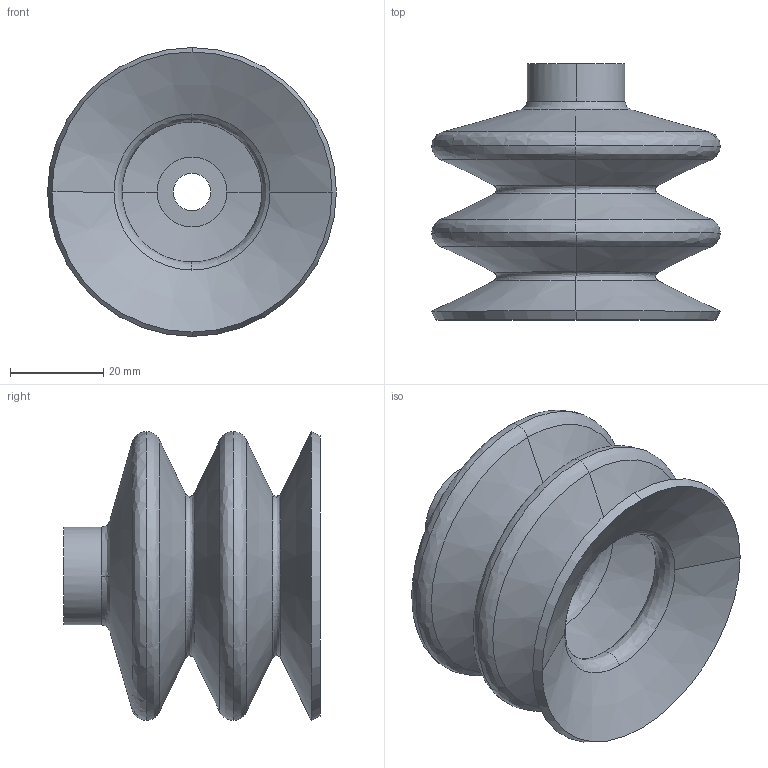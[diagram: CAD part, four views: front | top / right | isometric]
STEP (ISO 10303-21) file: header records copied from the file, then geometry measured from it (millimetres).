
FILE_DESCRIPTION (( 'STEP AP214' ), '1' );
FILE_NAME ('VS3-S62.STEP', '2019-11-13T08:56:34', ( '微软用户' ), ( '微软中国' ), 'SwSTEP 2.0', 'SolidWorks 2016', '' );
FILE_SCHEMA (( 'AUTOMOTIVE_DESIGN' ));
Length unit declared in the file: millimetre
Products named in the file (1): VS3-S62
Bounding box: 62 x 55 x 62 mm (x, y, z)
Volume: 32564.3 mm3; surface area: 27538.8 mm2
Topology: 1 solids, 1 shells, 55 faces, 122 edges, 70 vertices
Faces by surface type: bspline 26, cone 22, cylinder 4, plane 3
Entity records: 1836 total; most frequent: CARTESIAN_POINT 722, ORIENTED_EDGE 244, DIRECTION 222, EDGE_CURVE 122, AXIS2_PLACEMENT_3D 98, VERTEX_POINT 70, CIRCLE 68, EDGE_LOOP 58
